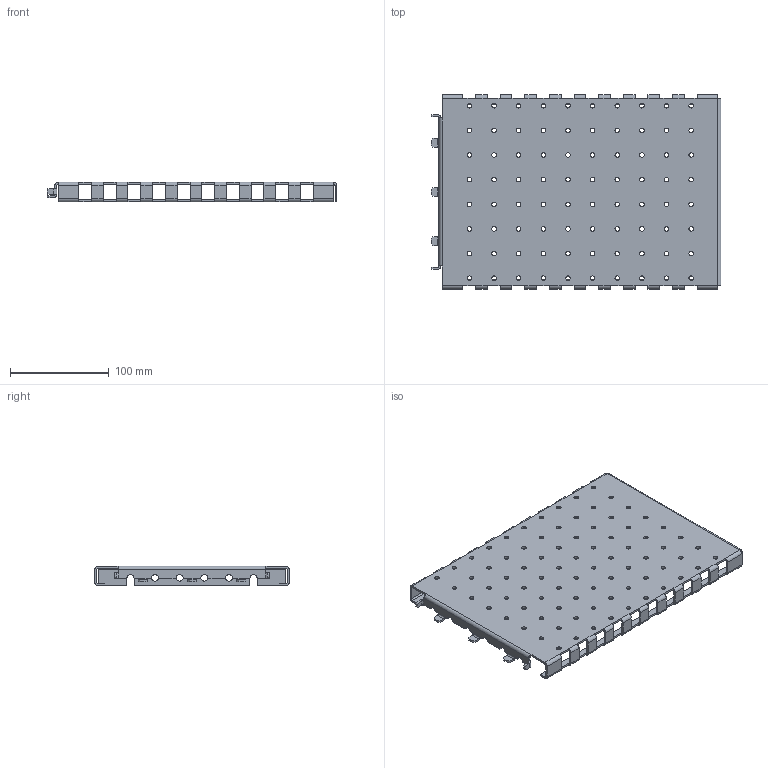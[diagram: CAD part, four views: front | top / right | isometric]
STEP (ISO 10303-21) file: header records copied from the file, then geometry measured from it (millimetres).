
FILE_DESCRIPTION(('STEP AP203'), '1');
FILE_NAME('Îãðàæäåíèå ñáîðíîé øèíû áîêîâîå ìîíòàæíîå 200õ400 ìì OptiBox M 419276 ÊÝÀÇ', '', ('UNSPECIFIED'), ('UNSPECIFIED'), 'C3D Converter', 'C3D Toolkit', '');
FILE_SCHEMA(('CONFIG_CONTROL_DESIGN'));
Length unit declared in the file: millimetre
Bounding box: 294.3 x 197 x 20 mm (x, y, z)
Volume: 134841 mm3; surface area: 142588.8 mm2
Topology: 1 solids, 1 shells, 414 faces, 1116 edges, 664 vertices
Faces by surface type: plane 220, cylinder 194
Full cylindrical faces by diameter (mm): 4.6 x80, 7.3 x4
Entity records: 12804 total; most frequent: DIRECTION 2250, CARTESIAN_POINT 2111, ORIENTED_EDGE 2064, EDGE_CURVE 1032, AXIS2_PLACEMENT_3D 803, EDGE_LOOP 666, VERTEX_POINT 664, LINE 644
